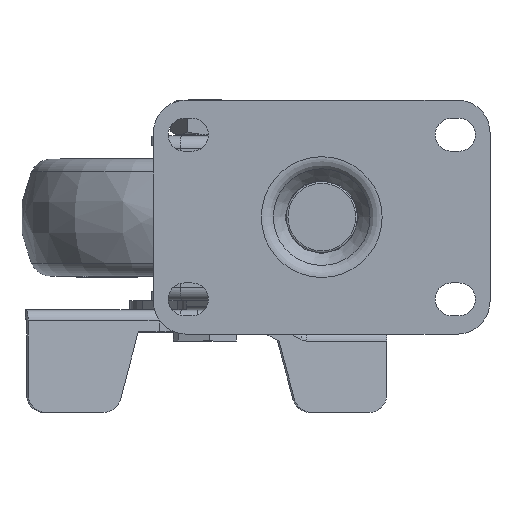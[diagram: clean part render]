
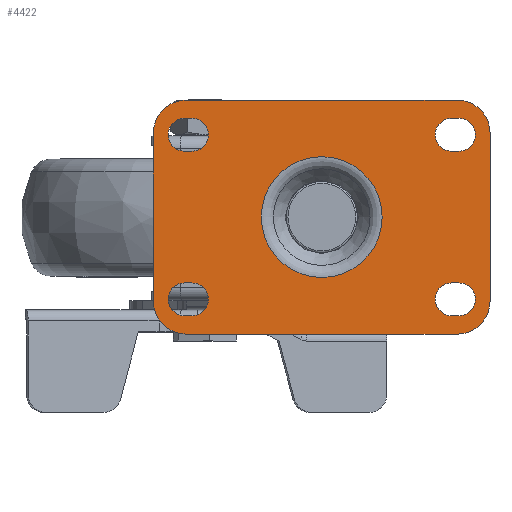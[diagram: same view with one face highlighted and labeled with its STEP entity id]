
A CAD part, top view. The second image highlights one B-rep face of the part: STEP entity #4422.
In plain terms, the highlighted planar face has unit normal (0, 0, 1).
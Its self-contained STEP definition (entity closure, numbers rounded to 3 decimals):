
#1135=LINE('',#27598,#2235);
#1136=LINE('',#27603,#2236);
#1137=LINE('',#27606,#2237);
#1138=LINE('',#27611,#2238);
#1139=LINE('',#27614,#2239);
#1140=LINE('',#27619,#2240);
#1141=LINE('',#27622,#2241);
#1142=LINE('',#27627,#2242);
#1143=LINE('',#27630,#2243);
#1144=LINE('',#27633,#2244);
#1145=LINE('',#27637,#2245);
#1146=LINE('',#27641,#2246);
#1147=LINE('',#27643,#2247);
#1148=LINE('',#27647,#2248);
#2235=VECTOR('',#18328,1.);
#2236=VECTOR('',#18331,1.);
#2237=VECTOR('',#18334,1.);
#2238=VECTOR('',#18337,1.);
#2239=VECTOR('',#18340,1.);
#2240=VECTOR('',#18343,1.);
#2241=VECTOR('',#18346,1.);
#2242=VECTOR('',#18349,1.);
#2243=VECTOR('',#18352,1.);
#2244=VECTOR('',#18353,1.);
#2245=VECTOR('',#18356,1.);
#2246=VECTOR('',#18359,1.);
#2247=VECTOR('',#18360,1.);
#2248=VECTOR('',#18363,1.);
#4422=ADVANCED_FACE('',(#5207,#5208,#5209,#5210,#5211,#5212),#4951,.F.);
#4951=PLANE('',#15008);
#5207=FACE_BOUND('',#6141,.T.);
#5208=FACE_BOUND('',#6142,.T.);
#5209=FACE_BOUND('',#6143,.T.);
#5210=FACE_BOUND('',#6144,.T.);
#5211=FACE_BOUND('',#6145,.T.);
#5212=FACE_BOUND('',#6146,.T.);
#6141=EDGE_LOOP('',(#9899));
#6142=EDGE_LOOP('',(#9900,#9901,#9902,#9903));
#6143=EDGE_LOOP('',(#9904,#9905,#9906,#9907));
#6144=EDGE_LOOP('',(#9908,#9909,#9910,#9911));
#6145=EDGE_LOOP('',(#9912,#9913,#9914,#9915));
#6146=EDGE_LOOP('',(#9916,#9917,#9918,#9919,#9920,#9921,#9922,#9923,#9924,
#9925));
#9899=ORIENTED_EDGE('',*,*,#13360,.T.);
#9900=ORIENTED_EDGE('',*,*,#13361,.F.);
#9901=ORIENTED_EDGE('',*,*,#13362,.F.);
#9902=ORIENTED_EDGE('',*,*,#13363,.F.);
#9903=ORIENTED_EDGE('',*,*,#13364,.F.);
#9904=ORIENTED_EDGE('',*,*,#13365,.F.);
#9905=ORIENTED_EDGE('',*,*,#13366,.F.);
#9906=ORIENTED_EDGE('',*,*,#13367,.F.);
#9907=ORIENTED_EDGE('',*,*,#13368,.F.);
#9908=ORIENTED_EDGE('',*,*,#13369,.F.);
#9909=ORIENTED_EDGE('',*,*,#13370,.F.);
#9910=ORIENTED_EDGE('',*,*,#13371,.F.);
#9911=ORIENTED_EDGE('',*,*,#13372,.F.);
#9912=ORIENTED_EDGE('',*,*,#13373,.F.);
#9913=ORIENTED_EDGE('',*,*,#13374,.F.);
#9914=ORIENTED_EDGE('',*,*,#13375,.F.);
#9915=ORIENTED_EDGE('',*,*,#13376,.F.);
#9916=ORIENTED_EDGE('',*,*,#13377,.T.);
#9917=ORIENTED_EDGE('',*,*,#13378,.T.);
#9918=ORIENTED_EDGE('',*,*,#13379,.T.);
#9919=ORIENTED_EDGE('',*,*,#13380,.T.);
#9920=ORIENTED_EDGE('',*,*,#13381,.T.);
#9921=ORIENTED_EDGE('',*,*,#13382,.T.);
#9922=ORIENTED_EDGE('',*,*,#13383,.T.);
#9923=ORIENTED_EDGE('',*,*,#13384,.T.);
#9924=ORIENTED_EDGE('',*,*,#13385,.T.);
#9925=ORIENTED_EDGE('',*,*,#13386,.T.);
#11430=VERTEX_POINT('',#27596);
#11431=VERTEX_POINT('',#27599);
#11432=VERTEX_POINT('',#27600);
#11433=VERTEX_POINT('',#27602);
#11434=VERTEX_POINT('',#27604);
#11435=VERTEX_POINT('',#27607);
#11436=VERTEX_POINT('',#27608);
#11437=VERTEX_POINT('',#27610);
#11438=VERTEX_POINT('',#27612);
#11439=VERTEX_POINT('',#27615);
#11440=VERTEX_POINT('',#27616);
#11441=VERTEX_POINT('',#27618);
#11442=VERTEX_POINT('',#27620);
#11443=VERTEX_POINT('',#27623);
#11444=VERTEX_POINT('',#27624);
#11445=VERTEX_POINT('',#27626);
#11446=VERTEX_POINT('',#27628);
#11447=VERTEX_POINT('',#27631);
#11448=VERTEX_POINT('',#27632);
#11449=VERTEX_POINT('',#27634);
#11450=VERTEX_POINT('',#27636);
#11451=VERTEX_POINT('',#27638);
#11452=VERTEX_POINT('',#27640);
#11453=VERTEX_POINT('',#27642);
#11454=VERTEX_POINT('',#27644);
#11455=VERTEX_POINT('',#27646);
#11456=VERTEX_POINT('',#27648);
#13360=EDGE_CURVE('',#11430,#11430,#13856,.T.);
#13361=EDGE_CURVE('',#11431,#11432,#1135,.T.);
#13362=EDGE_CURVE('',#11433,#11431,#13857,.T.);
#13363=EDGE_CURVE('',#11434,#11433,#1136,.T.);
#13364=EDGE_CURVE('',#11432,#11434,#13858,.T.);
#13365=EDGE_CURVE('',#11435,#11436,#1137,.T.);
#13366=EDGE_CURVE('',#11437,#11435,#13859,.T.);
#13367=EDGE_CURVE('',#11438,#11437,#1138,.T.);
#13368=EDGE_CURVE('',#11436,#11438,#13860,.T.);
#13369=EDGE_CURVE('',#11439,#11440,#1139,.T.);
#13370=EDGE_CURVE('',#11441,#11439,#13861,.T.);
#13371=EDGE_CURVE('',#11442,#11441,#1140,.T.);
#13372=EDGE_CURVE('',#11440,#11442,#13862,.T.);
#13373=EDGE_CURVE('',#11443,#11444,#1141,.T.);
#13374=EDGE_CURVE('',#11445,#11443,#13863,.T.);
#13375=EDGE_CURVE('',#11446,#11445,#1142,.T.);
#13376=EDGE_CURVE('',#11444,#11446,#13864,.T.);
#13377=EDGE_CURVE('',#11447,#11448,#1143,.T.);
#13378=EDGE_CURVE('',#11448,#11449,#1144,.T.);
#13379=EDGE_CURVE('',#11449,#11450,#13865,.T.);
#13380=EDGE_CURVE('',#11450,#11451,#1145,.T.);
#13381=EDGE_CURVE('',#11451,#11452,#13866,.T.);
#13382=EDGE_CURVE('',#11452,#11453,#1146,.T.);
#13383=EDGE_CURVE('',#11453,#11454,#1147,.T.);
#13384=EDGE_CURVE('',#11454,#11455,#13867,.T.);
#13385=EDGE_CURVE('',#11455,#11456,#1148,.T.);
#13386=EDGE_CURVE('',#11456,#11447,#13868,.T.);
#13856=CIRCLE('',#14994,16.522);
#13857=CIRCLE('',#14996,4.5);
#13858=CIRCLE('',#14997,4.5);
#13859=CIRCLE('',#14998,4.5);
#13860=CIRCLE('',#14999,4.5);
#13861=CIRCLE('',#15000,4.5);
#13862=CIRCLE('',#15001,4.5);
#13863=CIRCLE('',#15002,4.5);
#13864=CIRCLE('',#15003,4.5);
#13865=CIRCLE('',#15004,9.);
#13866=CIRCLE('',#15005,9.);
#13867=CIRCLE('',#15006,9.);
#13868=CIRCLE('',#15007,9.);
#14994=AXIS2_PLACEMENT_3D('',#27595,#18324,#18325);
#14996=AXIS2_PLACEMENT_3D('',#27601,#18329,#18330);
#14997=AXIS2_PLACEMENT_3D('',#27605,#18332,#18333);
#14998=AXIS2_PLACEMENT_3D('',#27609,#18335,#18336);
#14999=AXIS2_PLACEMENT_3D('',#27613,#18338,#18339);
#15000=AXIS2_PLACEMENT_3D('',#27617,#18341,#18342);
#15001=AXIS2_PLACEMENT_3D('',#27621,#18344,#18345);
#15002=AXIS2_PLACEMENT_3D('',#27625,#18347,#18348);
#15003=AXIS2_PLACEMENT_3D('',#27629,#18350,#18351);
#15004=AXIS2_PLACEMENT_3D('',#27635,#18354,#18355);
#15005=AXIS2_PLACEMENT_3D('',#27639,#18357,#18358);
#15006=AXIS2_PLACEMENT_3D('',#27645,#18361,#18362);
#15007=AXIS2_PLACEMENT_3D('',#27649,#18364,#18365);
#15008=AXIS2_PLACEMENT_3D('',#27650,#18366,#18367);
#18324=DIRECTION('',(0.,0.,-1.));
#18325=DIRECTION('',(-1.,0.,0.));
#18328=DIRECTION('',(1.,0.,0.));
#18329=DIRECTION('',(0.,0.,1.));
#18330=DIRECTION('',(1.,0.,0.));
#18331=DIRECTION('',(-1.,0.,0.));
#18332=DIRECTION('',(0.,0.,1.));
#18333=DIRECTION('',(1.,0.,0.));
#18334=DIRECTION('',(1.,0.,0.));
#18335=DIRECTION('',(0.,0.,1.));
#18336=DIRECTION('',(1.,0.,0.));
#18337=DIRECTION('',(-1.,0.,0.));
#18338=DIRECTION('',(0.,0.,1.));
#18339=DIRECTION('',(1.,0.,0.));
#18340=DIRECTION('',(1.,0.,0.));
#18341=DIRECTION('',(0.,0.,1.));
#18342=DIRECTION('',(1.,0.,0.));
#18343=DIRECTION('',(-1.,0.,0.));
#18344=DIRECTION('',(0.,0.,1.));
#18345=DIRECTION('',(1.,0.,0.));
#18346=DIRECTION('',(1.,0.,0.));
#18347=DIRECTION('',(0.,0.,1.));
#18348=DIRECTION('',(1.,0.,0.));
#18349=DIRECTION('',(-1.,0.,0.));
#18350=DIRECTION('',(0.,0.,1.));
#18351=DIRECTION('',(1.,0.,0.));
#18352=DIRECTION('',(-1.,0.,0.));
#18353=DIRECTION('',(-1.,0.,0.));
#18354=DIRECTION('',(0.,0.,1.));
#18355=DIRECTION('',(1.,0.,0.));
#18356=DIRECTION('',(0.,-1.,0.));
#18357=DIRECTION('',(0.,0.,1.));
#18358=DIRECTION('',(1.,0.,0.));
#18359=DIRECTION('',(1.,0.,0.));
#18360=DIRECTION('',(1.,0.,0.));
#18361=DIRECTION('',(0.,0.,1.));
#18362=DIRECTION('',(-1.,0.,0.));
#18363=DIRECTION('',(0.,1.,0.));
#18364=DIRECTION('',(0.,0.,1.));
#18365=DIRECTION('',(-1.,0.,0.));
#18366=DIRECTION('',(0.,0.,-1.));
#18367=DIRECTION('',(1.,0.,0.));
#27595=CARTESIAN_POINT('',(0.,0.,0.));
#27596=CARTESIAN_POINT('',(-16.522,0.,0.));
#27598=CARTESIAN_POINT('',(-37.5,18.,0.));
#27599=CARTESIAN_POINT('',(-37.5,18.,0.));
#27600=CARTESIAN_POINT('',(-35.5,18.,0.));
#27601=CARTESIAN_POINT('',(-37.5,22.5,0.));
#27602=CARTESIAN_POINT('',(-37.5,27.,0.));
#27603=CARTESIAN_POINT('',(-37.5,27.,0.));
#27604=CARTESIAN_POINT('',(-35.5,27.,0.));
#27605=CARTESIAN_POINT('',(-35.5,22.5,0.));
#27606=CARTESIAN_POINT('',(-37.5,-27.,0.));
#27607=CARTESIAN_POINT('',(-37.5,-27.,0.));
#27608=CARTESIAN_POINT('',(-35.5,-27.,0.));
#27609=CARTESIAN_POINT('',(-37.5,-22.5,0.));
#27610=CARTESIAN_POINT('',(-37.5,-18.,0.));
#27611=CARTESIAN_POINT('',(-37.5,-18.,0.));
#27612=CARTESIAN_POINT('',(-35.5,-18.,0.));
#27613=CARTESIAN_POINT('',(-35.5,-22.5,0.));
#27614=CARTESIAN_POINT('',(35.5,-27.,0.));
#27615=CARTESIAN_POINT('',(35.5,-27.,0.));
#27616=CARTESIAN_POINT('',(37.5,-27.,0.));
#27617=CARTESIAN_POINT('',(35.5,-22.5,0.));
#27618=CARTESIAN_POINT('',(35.5,-18.,0.));
#27619=CARTESIAN_POINT('',(35.5,-18.,0.));
#27620=CARTESIAN_POINT('',(37.5,-18.,0.));
#27621=CARTESIAN_POINT('',(37.5,-22.5,0.));
#27622=CARTESIAN_POINT('',(35.5,18.,0.));
#27623=CARTESIAN_POINT('',(35.5,18.,0.));
#27624=CARTESIAN_POINT('',(37.5,18.,0.));
#27625=CARTESIAN_POINT('',(35.5,22.5,0.));
#27626=CARTESIAN_POINT('',(35.5,27.,0.));
#27627=CARTESIAN_POINT('',(35.5,27.,0.));
#27628=CARTESIAN_POINT('',(37.5,27.,0.));
#27629=CARTESIAN_POINT('',(37.5,22.5,0.));
#27630=CARTESIAN_POINT('',(-37.,32.,0.));
#27631=CARTESIAN_POINT('',(37.,32.,0.));
#27632=CARTESIAN_POINT('',(0.,32.,0.));
#27633=CARTESIAN_POINT('',(-37.,32.,0.));
#27634=CARTESIAN_POINT('',(-37.,32.,0.));
#27635=CARTESIAN_POINT('',(-37.,23.,0.));
#27636=CARTESIAN_POINT('',(-46.,23.,0.));
#27637=CARTESIAN_POINT('',(-46.,23.,0.));
#27638=CARTESIAN_POINT('',(-46.,-23.,0.));
#27639=CARTESIAN_POINT('',(-37.,-23.,0.));
#27640=CARTESIAN_POINT('',(-37.,-32.,0.));
#27641=CARTESIAN_POINT('',(-37.,-32.,0.));
#27642=CARTESIAN_POINT('',(0.,-32.,0.));
#27643=CARTESIAN_POINT('',(-37.,-32.,0.));
#27644=CARTESIAN_POINT('',(37.,-32.,0.));
#27645=CARTESIAN_POINT('',(37.,-23.,0.));
#27646=CARTESIAN_POINT('',(46.,-23.,0.));
#27647=CARTESIAN_POINT('',(46.,23.,0.));
#27648=CARTESIAN_POINT('',(46.,23.,0.));
#27649=CARTESIAN_POINT('',(37.,23.,0.));
#27650=CARTESIAN_POINT('',(-32.,0.,0.));
